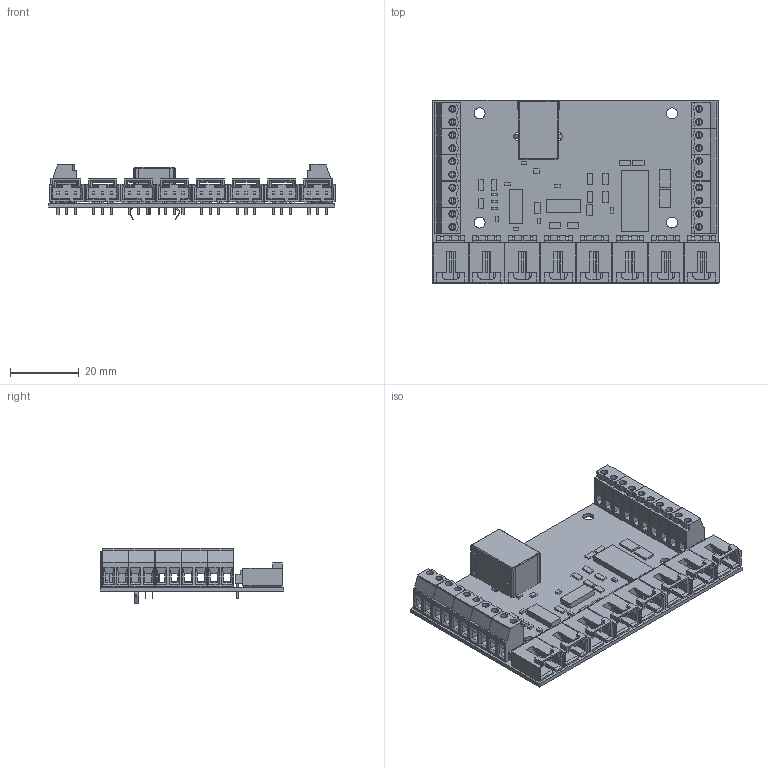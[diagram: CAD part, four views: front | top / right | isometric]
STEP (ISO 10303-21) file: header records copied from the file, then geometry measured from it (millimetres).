
FILE_DESCRIPTION(('Open CASCADE Model'),'2;1');
FILE_NAME('Open CASCADE Shape Model','2010-08-13T15:36:48',('Author'),( 'Open CASCADE'),'Open CASCADE STEP processor 6.2','Open CASCADE 6.2' ,'Unknown');
FILE_SCHEMA(('AUTOMOTIVE_DESIGN { 1 0 10303 214 1 1 1 1 }'));
Length unit declared in the file: millimetre
Products named in the file (73): PCB; Board; R11; 451399744; Extruded; C7; 451399488; C6; R9; U5; 451412544; U4; 451398848; U3; D1; U2; 451400128; R10; 451399360; R8; R7; 451399232; R6; 451399872; R5; R4; R3; R2; R1; C17; C15; C3; C2; C1; R16; R17; C18; U1; 451412416; C5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
Assembly tree (107 placements, depth 6):
  PCB
    Board
    R11
      451399744
        Extruded
    C7
      451399488
        Extruded
    C6
      451399488
        Extruded
    R9
      451399744
        Extruded
    U5
      451412544
        Extruded
    U4
      451398848
        Extruded
    U3
      451398848
        Extruded
    D1
      451398848
        Extruded
    U2
      451400128
        Extruded
    R10
      451399360
        Extruded
    R8
      451399360
        Extruded
    R7
      451399232
        Extruded
    R6
      451399872
        Extruded
    R5
      451399232
        Extruded
    R4
      451399232
        Extruded
    R3
      451399488
        Extruded
    R2
      451399232
        Extruded
    R1
      451399488
        Extruded
    C17
      451399872
        Extruded
    C15
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Bounding box: 83.19 x 53.34 x 16.01 mm (x, y, z)
Volume: 14810.4 mm3; surface area: 24929.2 mm2
Topology: 49 solids, 49 shells, 2169 faces, 5621 edges, 3764 vertices
Faces by surface type: plane 1833, cylinder 334, cone 2
Full cylindrical faces by diameter (mm): 0.965 x28, 1.321 x20, 2.184 x2, 3.175 x4
Entity records: 38868 total; most frequent: CARTESIAN_POINT 6987, DIRECTION 5783, LINE 3722, VECTOR 3722, ORIENTED_EDGE 2982, PCURVE 2982, DEFINITIONAL_REPRESENTATION 2982, EDGE_CURVE 1491
